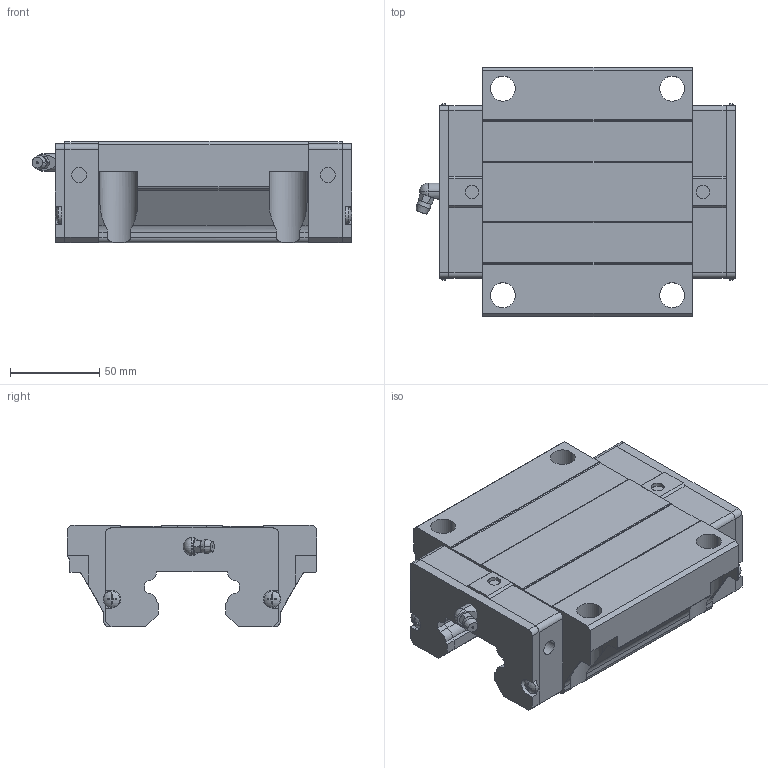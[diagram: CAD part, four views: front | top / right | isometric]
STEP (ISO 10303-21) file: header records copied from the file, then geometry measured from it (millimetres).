
FILE_DESCRIPTION(('starvars output'),'2;1');
FILE_NAME('cv20190626222417000041301.stp','22:24:17 2019/06/26',( 'Thomas Industrial Network Germany GmbH'),( 'Thomas Industrial Network Germany GmbH'),'unknown preprocess','ACIS' ,'unknown authorization');
FILE_SCHEMA(('CONFIG_CONTROL_DESIGN {UNKNOWN IMPLEMENTATION LEVEL}'));
Length unit declared in the file: millimetre
Products named in the file (10): PRODUCT_ID_1; PRODUCT_ID_2; PRODUCT_ID_3; PRODUCT_ID_4; PRODUCT_ID_5; PRODUCT_ID_6; PRODUCT_ID_7; PRODUCT_ID_8; PRODUCT_ID_9; PRODUCT_ID_10
Bounding box: 179.6 x 140 x 57 mm (x, y, z)
Volume: 817104.7 mm3; surface area: 121514.7 mm2
Topology: 10 solids, 10 shells, 417 faces, 1112 edges, 721 vertices
Faces by surface type: plane 270, cylinder 89, cone 46, sphere 12
Entity records: 12655 total; most frequent: CARTESIAN_POINT 2241, ORIENTED_EDGE 2216, DIRECTION 1724, EDGE_CURVE 1108, VERTEX_POINT 721, VECTOR 692, LINE 692, AXIS2_PLACEMENT_3D 516
